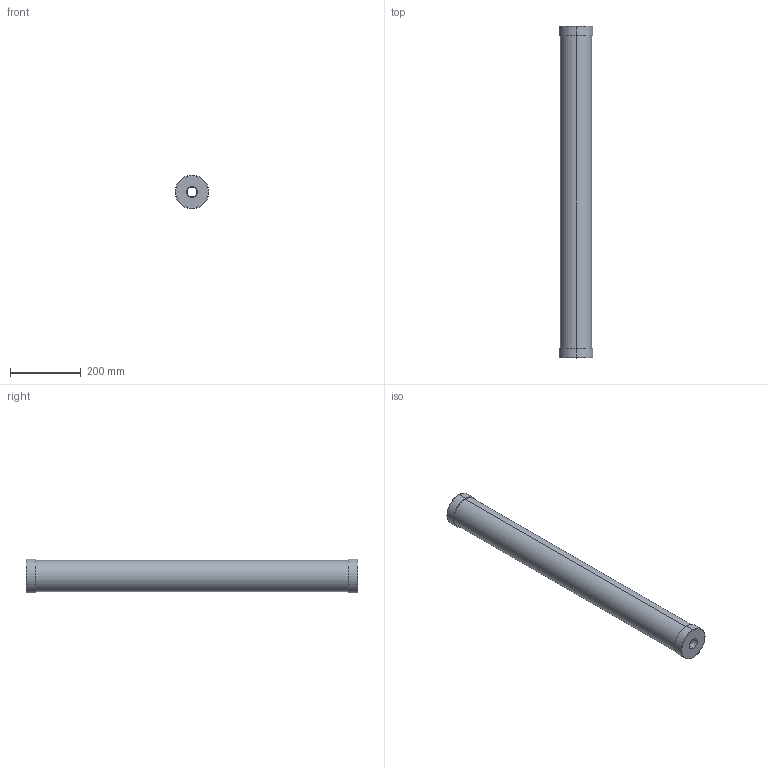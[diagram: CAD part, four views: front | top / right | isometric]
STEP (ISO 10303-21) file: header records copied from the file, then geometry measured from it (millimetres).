
FILE_DESCRIPTION (( 'STEP AP203' ), '1' );
FILE_NAME ('CC4000_P_BSPT.STEP', '2016-03-21T09:36:22', ( '' ), ( '' ), 'SwSTEP 2.0', 'SolidWorks 2014', '' );
FILE_SCHEMA (( 'CONFIG_CONTROL_DESIGN' ));
Length unit declared in the file: inch
Products named in the file (2): CC4000_P_BSPT
Bounding box: 95.25 x 939.8 x 95.25 mm (x, y, z)
Volume: 1690358.7 mm3; surface area: 506340.5 mm2
Topology: 1 solids, 1 shells, 28 faces, 56 edges, 36 vertices
Faces by surface type: cylinder 12, plane 8, torus 4, cone 4
Entity records: 909 total; most frequent: DIRECTION 156, CARTESIAN_POINT 122, ORIENTED_EDGE 112, AXIS2_PLACEMENT_3D 70, EDGE_CURVE 56, CIRCLE 40, EDGE_LOOP 36, VERTEX_POINT 36
